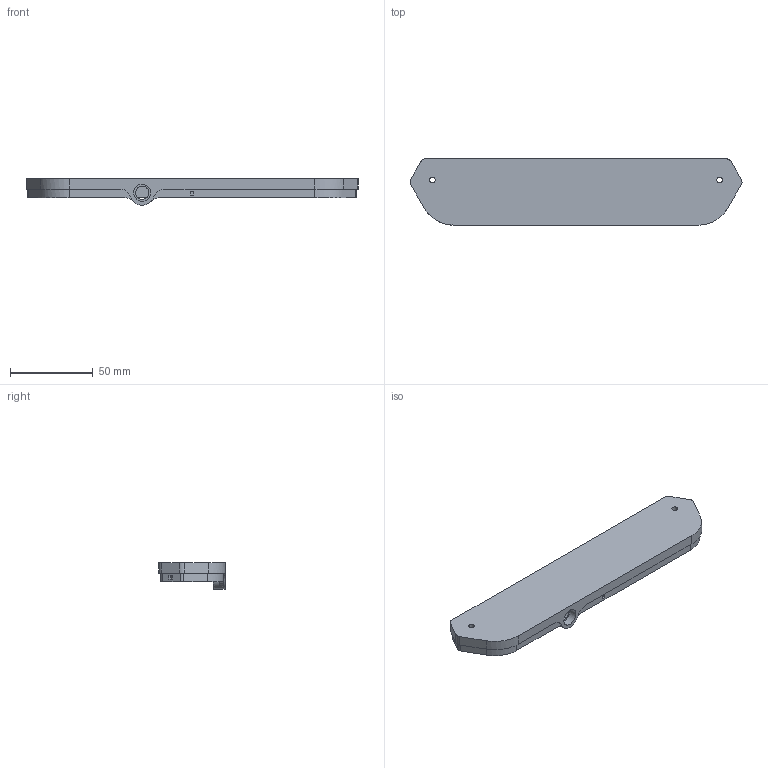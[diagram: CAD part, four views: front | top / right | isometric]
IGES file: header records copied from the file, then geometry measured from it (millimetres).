
Global section: file name: Power Bottom; native system: Autodesk Inventor 2017; preprocessor: unknown; author: cdrsk; date: 20181227.184341; units: millimetre
Bounding box: 200.65 x 40 x 15.91 mm (x, y, z)
Volume: 29865.6 mm3; surface area: 25448.7 mm2
Topology: 1 solids, 1 shells, 101 faces, 275 edges, 183 vertices
Faces by surface type: bspline 101
